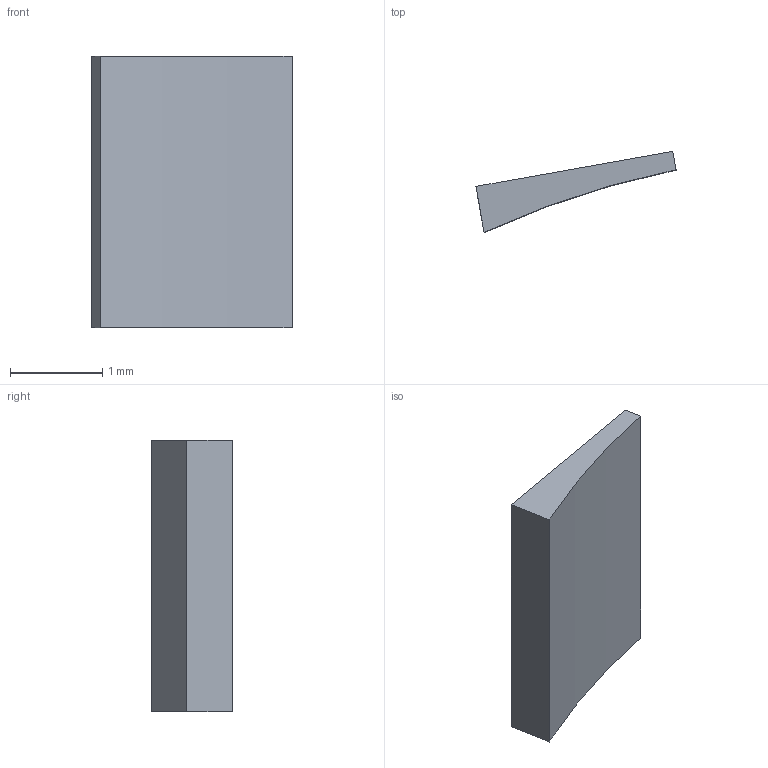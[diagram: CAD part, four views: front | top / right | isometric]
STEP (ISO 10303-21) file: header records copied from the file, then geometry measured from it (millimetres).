
FILE_DESCRIPTION(('FreeCAD Model'),'2;1');
FILE_NAME('Open CASCADE Shape Model','2026-10-23T21:15:57',('FreeCAD'),( 'FreeCAD'),'Open CASCADE STEP processor 7.8','FreeCAD','Unknown');
FILE_SCHEMA(('AUTOMOTIVE_DESIGN { 1 0 10303 214 1 1 1 1 }'));
Length unit declared in the file: millimetre
Products named in the file (1): Open CASCADE STEP translator 7.8 5
Bounding box: 2.17 x 0.88 x 2.95 mm (x, y, z)
Volume: 2 mm3; surface area: 16.3 mm2
Topology: 1 solids, 1 shells, 6 faces, 12 edges, 8 vertices
Faces by surface type: plane 5, cylinder 1
Entity records: 168 total; most frequent: DIRECTION 28, CARTESIAN_POINT 27, ORIENTED_EDGE 24, EDGE_CURVE 12, LINE 10, VECTOR 10, AXIS2_PLACEMENT_3D 9, VERTEX_POINT 8
